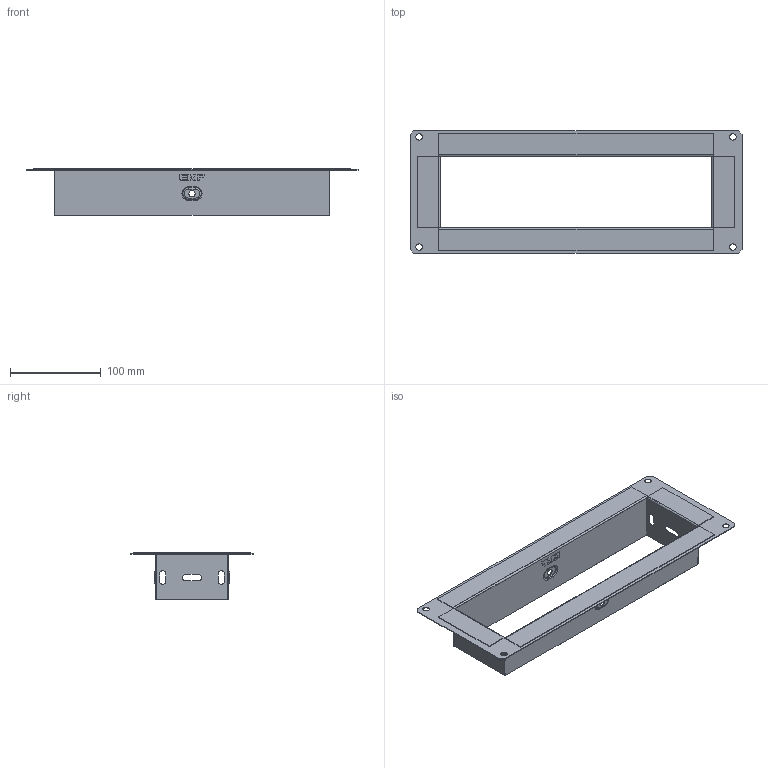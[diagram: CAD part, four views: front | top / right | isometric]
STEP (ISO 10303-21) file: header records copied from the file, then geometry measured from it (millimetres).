
FILE_DESCRIPTION (( 'STEP AP203' ), '1' );
FILE_NAME ('f80300_捘.STEP', '2020-01-23T12:29:54', ( '' ), ( '' ), 'SwSTEP 2.0', 'SolidWorks 2016', '' );
FILE_SCHEMA (( 'CONFIG_CONTROL_DESIGN' ));
Length unit declared in the file: millimetre
Products named in the file (9): f50300_2; f80300_3; f80300_1; f80300_捘
Assembly tree (5 placements, depth 2):
  f50300_2
  f80300_3
  f80300_3
  f80300_捘
    f80300_1
    f50300_2  x2
    f80300_3  x2
  f80300_1
Bounding box: 365 x 135 x 51.5 mm (x, y, z)
Volume: 64590.8 mm3; surface area: 164882.4 mm2
Topology: 5 solids, 5 shells, 314 faces, 816 edges, 528 vertices
Faces by surface type: plane 216, cylinder 64, bspline 18, torus 16
Entity records: 6402 total; most frequent: CARTESIAN_POINT 1382, ORIENTED_EDGE 876, DIRECTION 840, EDGE_CURVE 438, VECTOR 336, LINE 336, VERTEX_POINT 284, AXIS2_PLACEMENT_3D 252
